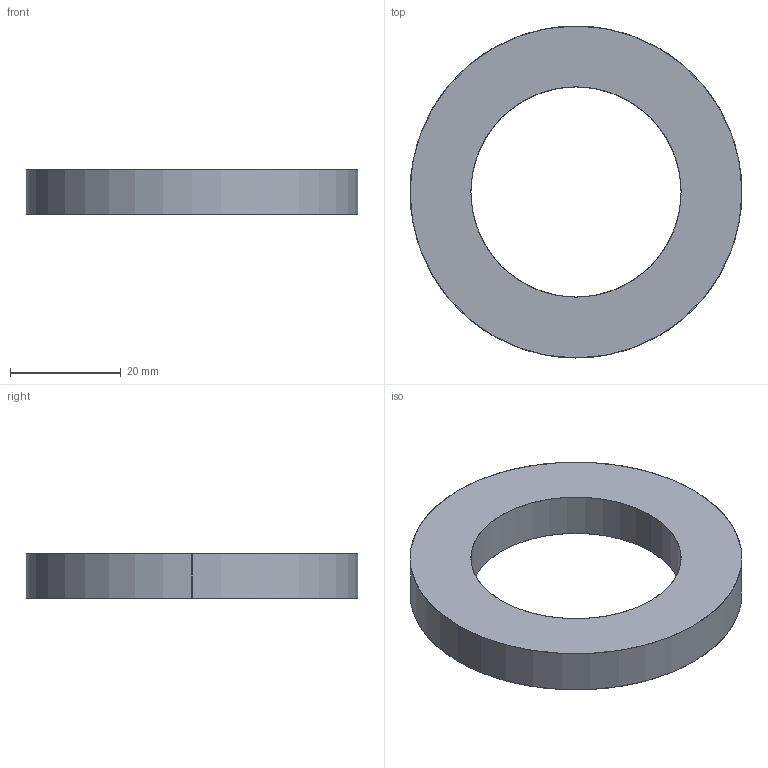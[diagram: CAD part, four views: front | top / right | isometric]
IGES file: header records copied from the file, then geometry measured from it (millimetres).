
Start section: SolidWorks IGES file using analytic representation for surfaces
Global section: file name: \\Eins-server\共有図面\カタログVOL2製作資料\吸着パット(EPスポンジ付)\322949\322949.IGS,41HSolidWorks 2006 by; native system: SolidWorks Corporation; preprocessor: SolidWorks 2006 by SolidWorks Corporation; author: CAD53; date: 080908.155156; units: millimetre
Bounding box: 60 x 60 x 8 mm (x, y, z)
Surface area: 5849.6 mm2 (no closed solid volume)
Topology: 0 solids, 0 shells, 6 faces, 272 edges, 272 vertices
Faces by surface type: revolution 4, bspline 2
